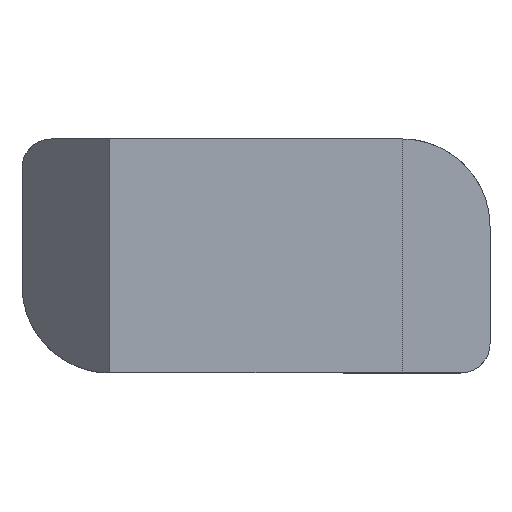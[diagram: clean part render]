
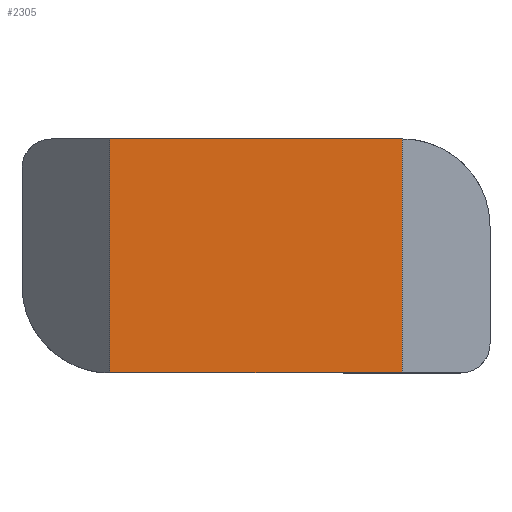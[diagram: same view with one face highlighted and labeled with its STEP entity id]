
A CAD part, front view. The second image highlights one B-rep face of the part: STEP entity #2305.
In plain terms, the highlighted planar face has unit normal (0, -1, 0).
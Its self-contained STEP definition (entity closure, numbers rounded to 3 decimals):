
#11 = ORIENTED_EDGE ( 'NONE', *, *, #2218, .T. ) ;
#198 = PLANE ( 'NONE',  #3297 ) ;
#212 = VERTEX_POINT ( 'NONE', #2596 ) ;
#325 = CARTESIAN_POINT ( 'NONE',  ( 5., -6.5, 4. ) ) ;
#371 = ORIENTED_EDGE ( 'NONE', *, *, #2624, .F. ) ;
#524 = VERTEX_POINT ( 'NONE', #658 ) ;
#531 = EDGE_CURVE ( 'NONE', #710, #1240, #540, .T. ) ;
#540 = LINE ( 'NONE', #325, #2347 ) ;
#589 = DIRECTION ( 'NONE',  ( 0., 0., -1. ) ) ;
#658 = CARTESIAN_POINT ( 'NONE',  ( -5., -6.5, 4. ) ) ;
#710 = VERTEX_POINT ( 'NONE', #2665 ) ;
#944 = LINE ( 'NONE', #1169, #3102 ) ;
#1002 = LINE ( 'NONE', #2836, #1923 ) ;
#1169 = CARTESIAN_POINT ( 'NONE',  ( -5., -6.5, -4. ) ) ;
#1211 = ORIENTED_EDGE ( 'NONE', *, *, #1788, .T. ) ;
#1240 = VERTEX_POINT ( 'NONE', #1314 ) ;
#1314 = CARTESIAN_POINT ( 'NONE',  ( 5., -6.5, -4. ) ) ;
#1412 = ORIENTED_EDGE ( 'NONE', *, *, #531, .F. ) ;
#1528 = DIRECTION ( 'NONE',  ( 1., 0., 0. ) ) ;
#1788 = EDGE_CURVE ( 'NONE', #524, #212, #1002, .T. ) ;
#1923 = VECTOR ( 'NONE', #589, 1000. ) ;
#2151 = DIRECTION ( 'NONE',  ( 0., 0., -1. ) ) ;
#2218 = EDGE_CURVE ( 'NONE', #212, #1240, #944, .T. ) ;
#2305 = ADVANCED_FACE ( 'NONE', ( #2521 ), #198, .F. ) ;
#2347 = VECTOR ( 'NONE', #2151, 1000. ) ;
#2521 = FACE_OUTER_BOUND ( 'NONE', #4371, .T. ) ;
#2596 = CARTESIAN_POINT ( 'NONE',  ( -5., -6.5, -4. ) ) ;
#2599 = CARTESIAN_POINT ( 'NONE',  ( -5., -6.5, 4. ) ) ;
#2624 = EDGE_CURVE ( 'NONE', #524, #710, #3311, .T. ) ;
#2665 = CARTESIAN_POINT ( 'NONE',  ( 5., -6.5, 4. ) ) ;
#2728 = DIRECTION ( 'NONE',  ( -1., 0., 0. ) ) ;
#2747 = CARTESIAN_POINT ( 'NONE',  ( -5., -6.5, 4. ) ) ;
#2836 = CARTESIAN_POINT ( 'NONE',  ( -5., -6.5, 4. ) ) ;
#3102 = VECTOR ( 'NONE', #1528, 1000. ) ;
#3297 = AXIS2_PLACEMENT_3D ( 'NONE', #2747, #4174, #2728 ) ;
#3311 = LINE ( 'NONE', #2599, #4681 ) ;
#3786 = DIRECTION ( 'NONE',  ( 1., 0., 0. ) ) ;
#4174 = DIRECTION ( 'NONE',  ( 0., 1., 0. ) ) ;
#4371 = EDGE_LOOP ( 'NONE', ( #11, #1412, #371, #1211 ) ) ;
#4681 = VECTOR ( 'NONE', #3786, 1000. ) ;
